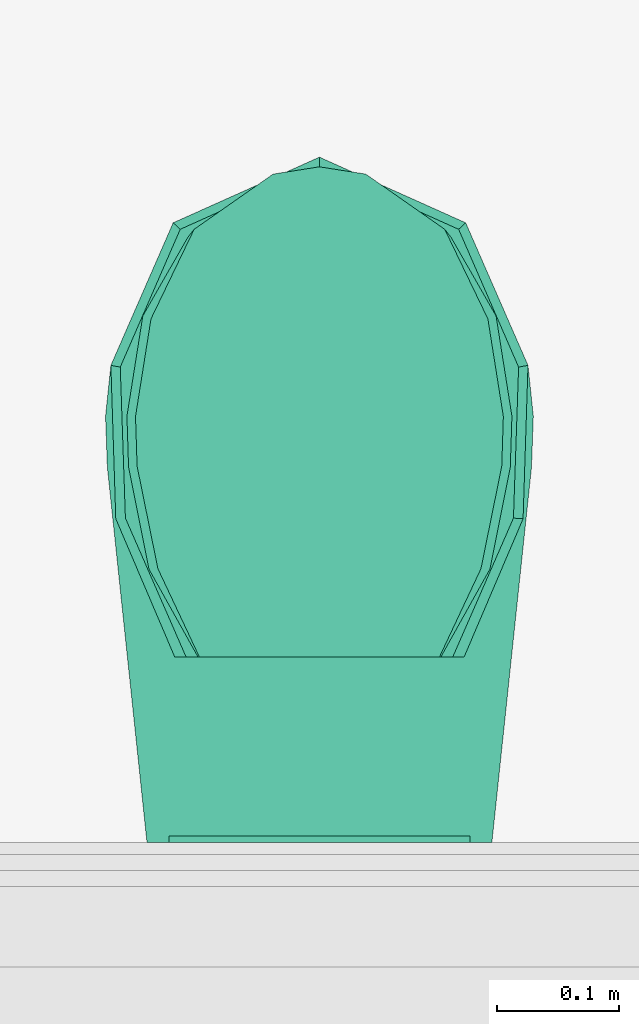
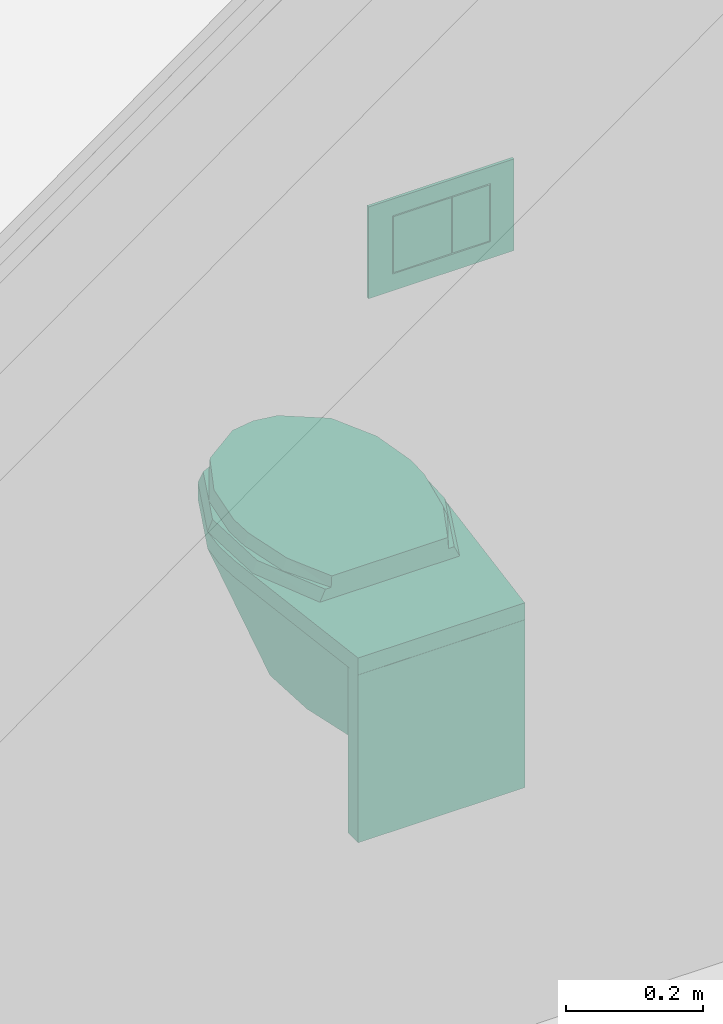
# One storey, part 241 of 301: 1 flow terminal.
"""IFC2X3 building model written with IfcOpenShell, lengths in millimetres."""

from ifc_helpers import new_model, entity, si_unit, converted_unit, derived_unit, money_unit, direction, frame, origin_with_axes, place, context, subcontext, project, spatial, faceted_brep, source, transform, mapped, type_object, element, save


model = new_model("IFC2X3")

# Units and contexts
model_context = context("Model", 3, precision=0.01, world=origin_with_axes(), true_north=direction((0.0, 1.0)))
body_context = subcontext(model_context, "Body", "Model", "MODEL_VIEW")
ifc_project = project(units=[si_unit("LENGTHUNIT", "METRE", prefix="MILLI"), si_unit("AREAUNIT", "SQUARE_METRE"), si_unit("VOLUMEUNIT", "CUBIC_METRE"), converted_unit("PLANEANGLEUNIT", "DEGREE", entity("IfcPlaneAngleMeasure", 0.0174532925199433), si_unit("PLANEANGLEUNIT", "RADIAN"), dimensions=[0, 0, 0, 0, 0, 0, 0]), money_unit("EUR"), converted_unit("TIMEUNIT", "Year", entity("IfcTimeMeasure", 31557600.0), si_unit("TIMEUNIT", "SECOND"), dimensions=[0, 0, 1, 0, 0, 0, 0]), si_unit("MASSUNIT", "GRAM", prefix="KILO"), si_unit("THERMODYNAMICTEMPERATUREUNIT", "DEGREE_CELSIUS"), si_unit("LUMINOUSINTENSITYUNIT", "LUMEN"), si_unit("ENERGYUNIT", "JOULE", prefix="MEGA"), derived_unit("THERMALCONDUCTANCEUNIT", [(si_unit("POWERUNIT", "WATT"), 1), (si_unit("LENGTHUNIT", "METRE"), -1), (si_unit("THERMODYNAMICTEMPERATUREUNIT", "KELVIN"), -1)]), derived_unit("SPECIFICHEATCAPACITYUNIT", [(si_unit("ENERGYUNIT", "JOULE"), 1), (si_unit("MASSUNIT", "GRAM", prefix="KILO"), -1), (si_unit("THERMODYNAMICTEMPERATUREUNIT", "KELVIN"), -1)]), derived_unit("MASSDENSITYUNIT", [(si_unit("MASSUNIT", "GRAM", prefix="KILO"), 1), (si_unit("VOLUMEUNIT", "CUBIC_METRE"), -1)])], contexts=[model_context])

# Site, building, storey
site_placement = place(None, frame((0.0, 0.0, 8650.0), z_axis=(0.0, 0.0, 1.0), x_axis=(1.0, 0.0, 0.0)))
site = spatial("IfcSite", under=ifc_project, at=site_placement, Name="43301:001:0844", CompositionType="ELEMENT")
building_placement = place(site_placement, origin_with_axes())
building = spatial("IfcBuilding", under=site, at=building_placement, Name="Kuressaare Ametikooli tuulikute mehaanikute õppekorpus", CompositionType="ELEMENT")
storey_placement = place(building_placement, origin_with_axes())
storey = spatial("IfcBuildingStorey", under=building, at=storey_placement, Name="1.korrus", CompositionType="ELEMENT", Elevation=0.0)

# Flow terminal
sanitary_terminal_type = type_object("IfcSanitaryTerminalType", Name="WC 27", PredefinedType="NOTDEFINED")
shared_shape = source(origin_with_axes(), body_context, "Body", "Brep", [
    faceted_brep([(-141.0283315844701, -29.31865370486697, 69.99999999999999), (-141.0283315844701, 0.4949050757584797, 69.99999999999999), (141.0283315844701, 0.4949050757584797, 69.99999999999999), (141.0283315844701, -29.31865370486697, 69.99999999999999), (-141.0283315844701, -29.31865370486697, 370.0), (-141.0283315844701, 0.4949050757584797, 370.0), (141.0283315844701, 0.4949050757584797, 370.0), (141.0283315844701, -29.31865370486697, 370.0)], [[[0, 1, 2, 3]], [[0, 4, 5, 1]], [[1, 5, 6, 2]], [[2, 6, 7, 3]], [[3, 7, 4, 0]], [[7, 6, 5, 4]]]),
    faceted_brep([(-101.7881776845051, -122.4661491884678, 370.0), (-164.8111927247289, -257.2969749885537, 370.0), (-170.4738719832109, -389.7973742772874, 370.0), (-119.554809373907, -506.3435444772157, 370.0), (0.0, -560.0, 370.0), (119.554809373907, -506.3435444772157, 370.0), (170.4738719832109, -389.7973742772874, 370.0), (164.8111927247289, -257.295981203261, 370.0), (101.7881776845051, -122.4661491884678, 370.0), (48.96817068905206, -87.43521908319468, 370.0), (48.96817068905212, -29.31865370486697, 370.0), (-48.96817068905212, -29.31865370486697, 370.0), (-48.96817068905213, -87.43521908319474, 370.0), (-63.65862189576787, -201.5126978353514, 370.0), (0.0, -179.8771255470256, 370.0), (63.65862189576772, -201.5126978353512, 370.0), (110.2599674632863, -260.6221805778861, 370.0), (127.3172437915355, -341.3672356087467, 370.0), (110.2599674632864, -422.1122906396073, 370.0), (63.65862189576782, -481.2217733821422, 370.0), (0.0, -502.8573456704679, 370.0), (-63.65862189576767, -481.2217733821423, 370.0), (-110.2599674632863, -422.1122906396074, 370.0), (-127.3172437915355, -341.3672356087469, 370.0), (-110.2599674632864, -260.6221805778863, 370.0), (-70.97348723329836, -270.8651255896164, 120.0), (-74.94382651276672, -372.4786779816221, 120.0), (-47.75865687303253, -440.0938417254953, 120.0), (0.0, -461.5278029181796, 120.0), (47.75865687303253, -440.0938417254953, 120.0), (74.94382651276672, -372.4786779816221, 120.0), (70.97348723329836, -270.8651255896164, 120.0), (48.96817068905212, -141.8100147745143, 135.0708656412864), (48.96817068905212, -132.9294031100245, 150.8349994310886), (48.96817068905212, -111.9632571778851, 220.0911688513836), (48.96817068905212, -168.852251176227, 120.0), (48.96817068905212, -29.31865370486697, 120.0), (-48.96817068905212, -29.31865370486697, 120.0), (-48.96817068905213, -168.852251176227, 120.0), (-48.96817068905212, -132.9294031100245, 150.8349994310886), (-24.48408534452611, -287.5770287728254, 170.0), (0.0, -279.2556548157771, 170.0), (24.48408534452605, -287.5770287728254, 170.0), (42.40767979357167, -310.3114452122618, 170.0), (48.96817068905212, -341.3672356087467, 170.0), (42.40767979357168, -372.4230260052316, 170.0), (24.48408534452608, -395.1574424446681, 170.0), (0.0, -403.4788164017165, 170.0), (-24.48408534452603, -395.1574424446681, 170.0), (-42.40767979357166, -372.4230260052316, 170.0), (-48.96817068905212, -341.3672356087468, 170.0), (-42.4076797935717, -310.311445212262, 170.0)], [[[0, 1, 2, 3, 4, 5, 6, 7, 8, 9, 10, 11, 12], [13, 14, 15, 16, 17, 18, 19, 20, 21, 22, 23, 24]], [[0, 25, 1]], [[1, 26, 2]], [[2, 27, 3]], [[3, 28, 4]], [[4, 29, 5]], [[5, 30, 6]], [[6, 31, 7]], [[8, 7, 32, 33]], [[8, 34, 9]], [[33, 32, 35, 36, 10, 9, 34]], [[10, 36, 37, 11]], [[12, 11, 37, 38, 39]], [[0, 12, 39]], [[13, 40, 41, 14]], [[14, 41, 42, 15]], [[15, 42, 43, 16]], [[16, 43, 44, 17]], [[17, 44, 45, 18]], [[18, 45, 46, 19]], [[19, 46, 47, 20]], [[20, 47, 48, 21]], [[21, 48, 49, 22]], [[22, 49, 50, 23]], [[23, 50, 51, 24]], [[24, 51, 40, 13]], [[25, 0, 39, 38]], [[25, 26, 1]], [[26, 27, 2]], [[27, 28, 3]], [[28, 29, 4]], [[29, 30, 5]], [[30, 31, 6]], [[7, 31, 35, 32]], [[8, 33, 34]], [[31, 30, 29, 28, 27, 26, 25, 38, 37, 36, 35]], [[40, 51, 50, 49, 48, 47, 46, 45, 44, 43, 42, 41]]]),
    faceted_brep([(174.8222455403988, -348.2949128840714, 370.0), (170.4738719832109, -389.7973742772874, 370.0), (119.554809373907, -506.3435444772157, 370.0), (0.0, -560.0, 370.0), (-119.554809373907, -506.3435444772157, 370.0), (-170.4738719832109, -389.7973742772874, 370.0), (-174.8222455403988, -348.2949128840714, 370.0), (-173.3473242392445, -306.5847503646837, 370.0), (-140.975445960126, 0.0, 370.0), (140.9734872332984, 0.0, 370.0), (173.3473242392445, -306.5847503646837, 370.0), (-83.6883665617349, -472.7512164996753, 370.0), (0.0, -510.3107353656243, 370.0), (83.6883665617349, -472.7512164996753, 370.0), (119.3317103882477, -391.1688973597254, 370.0), (122.3755718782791, -362.1171743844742, 370.0), (121.3431269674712, -332.9200606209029, 370.0), (98.68144106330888, -201.7886999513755, 370.0), (-98.68281217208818, -201.7886999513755, 370.0), (-121.3431269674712, -332.9200606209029, 370.0), (-122.3755718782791, -362.1171743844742, 370.0), (-119.3317103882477, -391.1688973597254, 370.0), (174.8222455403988, -348.2949128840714, 400.0), (170.4738719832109, -389.7973742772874, 400.0), (119.554809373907, -506.3435444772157, 400.0), (0.0, -560.0, 400.0), (-119.554809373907, -506.3435444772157, 400.0), (-170.4738719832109, -389.7973742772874, 400.0), (-174.8222455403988, -348.2949128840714, 400.0), (-173.3473242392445, -306.5847503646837, 400.0), (-140.975445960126, 0.0, 400.0), (140.9734872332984, 0.0, 400.0), (173.3473242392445, -306.5847503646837, 400.0), (0.0, -510.3107353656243, 400.0), (-83.6883665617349, -472.7512164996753, 400.0), (83.6883665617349, -472.7512164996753, 400.0), (119.3317103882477, -391.1688973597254, 400.0), (122.3755718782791, -362.1171743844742, 400.0), (121.3431269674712, -332.9200606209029, 400.0), (98.68144106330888, -201.7886999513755, 400.0), (-98.68281217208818, -201.7886999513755, 400.0), (-121.3431269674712, -332.9200606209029, 400.0), (-122.3755718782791, -362.1171743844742, 400.0), (-119.3317103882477, -391.1688973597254, 400.0)], [[[0, 1, 2, 3, 4, 5, 6, 7, 8, 9, 10], [11, 12, 13, 14, 15, 16, 17, 18, 19, 20, 21]], [[22, 23, 1, 0]], [[23, 24, 2, 1]], [[24, 25, 3, 2]], [[25, 26, 4, 3]], [[26, 27, 5, 4]], [[27, 28, 6, 5]], [[28, 29, 7, 6]], [[29, 30, 8, 7]], [[30, 31, 9, 8]], [[31, 32, 10, 9]], [[32, 22, 0, 10]], [[33, 12, 11, 34]], [[35, 13, 12, 33]], [[36, 14, 13, 35]], [[37, 15, 14, 36]], [[38, 16, 15, 37]], [[39, 17, 16, 38]], [[40, 18, 17, 39]], [[41, 19, 18, 40]], [[42, 20, 19, 41]], [[43, 21, 20, 42]], [[34, 11, 21, 43]], [[31, 30, 29, 28, 27, 26, 25, 24, 23, 22, 32], [40, 39, 38, 37, 36, 35, 33, 34, 43, 42, 41]]]),
    faceted_brep([(-170.4738719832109, -389.7973742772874, 400.0), (-166.4663168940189, -264.4263906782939, 400.0), (-118.2121021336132, -151.3163525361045, 400.0), (118.2121021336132, -151.3163525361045, 400.0), (166.4663168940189, -264.4263906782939, 400.0), (170.4738719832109, -389.7973742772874, 400.0), (119.554809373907, -506.3435444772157, 400.0), (0.0, -560.0, 400.0), (-119.554809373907, -506.3435444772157, 400.0), (-87.07689659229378, -411.9963613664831, 400.0), (-76.4888004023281, -438.0775703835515, 400.0), (-62.06856874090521, -459.4262123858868, 400.0), (-44.26109835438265, -474.4067566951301, 400.0), (-23.02579943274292, -483.9023013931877, 400.0), (0.0, -487.1544663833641, 400.0), (23.02579943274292, -483.9023013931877, 400.0), (44.26109835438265, -474.4067566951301, 400.0), (62.06856874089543, -459.4262123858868, 400.0), (76.4888004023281, -438.0775703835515, 400.0), (87.07689659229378, -411.9963613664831, 400.0), (94.51085540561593, -382.2763031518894, 400.0), (97.71606496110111, -351.7983255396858, 400.0), (96.61425296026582, -320.7429308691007, 400.0), (90.99294096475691, -286.7942733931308, 400.0), (81.3289539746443, -253.3384220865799, 400.0), (68.75412876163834, -223.4663237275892, 400.0), (-68.75448552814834, -223.4663237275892, 400.0), (-81.32886310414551, -253.3381075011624, 400.0), (-90.99294096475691, -286.7942733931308, 400.0), (-96.61425296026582, -320.7429308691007, 400.0), (-97.71606496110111, -351.7983255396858, 400.0), (-94.51085540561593, -382.2763031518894, 400.0), (-158.5902763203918, -264.9332211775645, 420.0000000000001), (-108.940468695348, -151.3163525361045, 420.0000000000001), (108.940468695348, -151.3163525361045, 420.0000000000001), (158.5902763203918, -264.9332211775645, 420.0000000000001), (162.8034977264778, -388.4070686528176, 420.0000000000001), (113.7912556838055, -501.0248055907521, 420.0000000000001), (0.0, -552.0944379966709, 420.0000000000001), (-113.7912556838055, -501.0248055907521, 420.0000000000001), (-162.8034977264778, -388.4070686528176, 420.0000000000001), (-76.4888004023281, -438.0775703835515, 420.0000000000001), (-87.07689659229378, -411.9963613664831, 420.0000000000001), (-62.06856874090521, -459.4262123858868, 420.0000000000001), (-44.26109835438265, -474.4067566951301, 420.0000000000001), (-23.02579943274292, -483.9023013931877, 420.0000000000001), (0.0, -487.1544663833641, 420.0000000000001), (23.02579943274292, -483.9023013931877, 420.0000000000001), (44.26109835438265, -474.4067566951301, 420.0000000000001), (62.06856874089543, -459.4262123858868, 420.0000000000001), (76.4888004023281, -438.0775703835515, 420.0000000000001), (87.07689659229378, -411.9963613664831, 420.0000000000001), (94.51085540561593, -382.2763031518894, 420.0000000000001), (97.71606496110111, -351.7983255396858, 420.0000000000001), (96.61425296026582, -320.7429308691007, 420.0000000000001), (90.99294096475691, -286.7942733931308, 420.0000000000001), (81.3289539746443, -253.3384220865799, 420.0000000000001), (68.75412876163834, -223.4663237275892, 420.0000000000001), (-68.75448552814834, -223.4663237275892, 420.0000000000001), (-81.32886310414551, -253.3381075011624, 420.0000000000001), (-90.99294096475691, -286.7942733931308, 420.0000000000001), (-96.61425296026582, -320.7429308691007, 420.0000000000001), (-97.71606496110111, -351.7983255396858, 420.0000000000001), (-94.51085540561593, -382.2763031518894, 420.0000000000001)], [[[0, 1, 2, 3, 4, 5, 6, 7, 8], [9, 10, 11, 12, 13, 14, 15, 16, 17, 18, 19, 20, 21, 22, 23, 24, 25, 26, 27, 28, 29, 30, 31]], [[0, 32, 1]], [[1, 33, 2]], [[3, 2, 33, 34]], [[3, 35, 4]], [[4, 36, 5]], [[5, 37, 6]], [[6, 38, 7]], [[7, 39, 8]], [[8, 40, 0]], [[41, 10, 9, 42]], [[43, 11, 10, 41]], [[44, 12, 11, 43]], [[45, 13, 12, 44]], [[46, 14, 13, 45]], [[47, 15, 14, 46]], [[48, 16, 15, 47]], [[49, 17, 16, 48]], [[50, 18, 17, 49]], [[51, 19, 18, 50]], [[52, 20, 19, 51]], [[53, 21, 20, 52]], [[54, 22, 21, 53]], [[55, 23, 22, 54]], [[56, 24, 23, 55]], [[57, 25, 24, 56]], [[58, 26, 25, 57]], [[59, 27, 26, 58]], [[60, 28, 27, 59]], [[61, 29, 28, 60]], [[62, 30, 29, 61]], [[63, 31, 30, 62]], [[42, 9, 31, 63]], [[0, 40, 32]], [[1, 32, 33]], [[34, 33, 32, 40, 39, 38, 37, 36, 35], [60, 59, 58, 57, 56, 55, 54, 53, 52, 51, 50, 49, 48, 47, 46, 45, 44, 43, 41, 42, 63, 62, 61]], [[3, 34, 35]], [[4, 35, 36]], [[5, 36, 37]], [[6, 37, 38]], [[7, 38, 39]], [[8, 39, 40]]]),
    faceted_brep([(107.5993284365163, -494.4181209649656, 420.0000000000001), (37.93662119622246, -546.1188070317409, 440.0000000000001), (39.85813221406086, -538.8154789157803, 420.0000000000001), (102.412130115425, -501.0248055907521, 440.0000000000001), (0.0, -552.0944379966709, 440.0000000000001), (0.0, -545.0932206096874, 420.0000000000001), (-39.85813221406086, -538.8154789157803, 420.0000000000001), (-107.5993284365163, -494.4181209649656, 420.0000000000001), (-144.3513116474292, -430.2603362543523, 420.0000000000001), (-157.3400209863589, -348.2949128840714, 420.0000000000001), (-156.01259181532, -306.5847503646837, 420.0000000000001), (-139.3844700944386, -223.3443004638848, 420.0000000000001), (-99.17339219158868, -151.3163525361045, 420.0000000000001), (99.17339219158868, -151.3163525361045, 420.0000000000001), (139.3844700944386, -223.3443004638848, 420.0000000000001), (156.01259181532, -306.5847503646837, 420.0000000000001), (157.3400209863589, -348.2949128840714, 420.0000000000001), (144.3504302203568, -430.2603362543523, 420.0000000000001), (137.6912486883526, -427.7848170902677, 440.0000000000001), (150.3317943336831, -348.0176467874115, 440.0000000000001), (149.0405036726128, -307.4274802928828, 440.0000000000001), (132.0192654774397, -223.5758524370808, 440.0000000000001), (98.04642182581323, -151.3163525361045, 440.0000000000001), (-98.04642182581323, -151.3163525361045, 440.0000000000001), (-132.0192654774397, -223.5758524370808, 440.0000000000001), (-149.0405036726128, -307.4274802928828, 440.0000000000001), (-150.3317943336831, -348.0176467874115, 440.0000000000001), (-137.6912486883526, -427.7848170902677, 440.0000000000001), (-102.412130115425, -501.0248055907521, 440.0000000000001), (-37.93662119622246, -546.1188070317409, 440.0000000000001)], [[[0, 1, 2]], [[0, 3, 1]], [[2, 1, 4]], [[0, 2, 5, 6, 7, 8, 9, 10, 11, 12, 13, 14, 15, 16, 17]], [[17, 3, 0]], [[3, 18, 19, 20, 21, 22, 23, 24, 25, 26, 27, 28, 29, 4, 1]], [[2, 4, 5]], [[5, 29, 6]], [[6, 28, 7]], [[7, 27, 8]], [[8, 26, 9]], [[9, 25, 10]], [[10, 24, 11]], [[11, 23, 12]], [[12, 23, 22, 13]], [[13, 21, 14]], [[14, 20, 15]], [[15, 19, 16]], [[16, 18, 17]], [[17, 18, 3]], [[16, 19, 18]], [[15, 20, 19]], [[14, 21, 20]], [[13, 22, 21]], [[11, 24, 23]], [[10, 25, 24]], [[9, 26, 25]], [[8, 27, 26]], [[7, 28, 27]], [[6, 29, 28]], [[5, 4, 29]]]),
    faceted_brep([(83.0, 0.0, 1036.0), (83.0, -5.0, 1036.0), (83.0, -4.999999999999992, 1170.0), (83.0, 0.0, 1170.0), (123.0, 0.0, 1036.0), (123.0, -5.0, 1036.0), (123.0, -4.999999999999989, 1200.0), (-123.0, -4.999999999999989, 1200.0), (-123.0, -5.0, 1036.0), (-83.0, -5.0, 1036.0), (-83.0, -4.999999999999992, 1170.0), (-83.0, 0.0, 1170.0), (-83.0, 0.0, 1036.0), (-123.0, 0.0, 1036.0), (-123.0, 0.0, 1200.0), (123.0, 0.0, 1200.0)], [[[0, 1, 2, 3]], [[4, 5, 1, 0]], [[1, 5, 6, 7, 8, 9, 10, 2]], [[3, 2, 10, 11]], [[0, 3, 11, 12, 13, 14, 15, 4]], [[15, 6, 5, 4]], [[14, 7, 6, 15]], [[13, 8, 7, 14]], [[12, 9, 8, 13]], [[11, 10, 9, 12]]]),
    faceted_brep([(-83.0, 0.0, 1036.0), (-83.0, -5.0, 1036.0), (-83.0, -4.999999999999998, 1066.0), (-83.0, 0.0, 1066.0), (83.0, 0.0, 1036.0), (83.0, -5.0, 1036.0), (83.0, -4.999999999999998, 1066.0), (83.0, 0.0, 1066.0)], [[[0, 1, 2, 3]], [[4, 5, 1, 0]], [[1, 5, 6, 2]], [[3, 2, 6, 7]], [[0, 3, 7, 4]], [[7, 6, 5, 4]]]),
    faceted_brep([(81.0, 0.0, 1068.0), (81.0, -4.999999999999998, 1068.0), (-17.0, -4.999999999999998, 1068.0), (-17.0, 0.0, 1068.0), (81.0, 0.0, 1168.0), (81.0, -4.999999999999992, 1168.0), (-17.0, -4.999999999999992, 1168.0), (-17.0, 0.0, 1168.0)], [[[0, 1, 2, 3]], [[4, 5, 1, 0]], [[1, 5, 6, 2]], [[3, 2, 6, 7]], [[0, 3, 7, 4]], [[7, 6, 5, 4]]]),
    faceted_brep([(-19.0, 0.0, 1168.0), (-19.0, -4.999999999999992, 1168.0), (-19.0, -4.999999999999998, 1068.0), (-19.0, 0.0, 1068.0), (-81.0, 0.0, 1168.0), (-81.0, -4.999999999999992, 1168.0), (-81.0, -4.999999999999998, 1068.0), (-81.0, 0.0, 1068.0)], [[[0, 1, 2, 3]], [[4, 5, 1, 0]], [[1, 5, 6, 2]], [[3, 2, 6, 7]], [[0, 3, 7, 4]], [[7, 6, 5, 4]]]),
])
flow_terminal_placement = place(storey_placement, frame((102267.9522847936, 18134.79361712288, 59.99999999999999), z_axis=(0.0, 0.0, 1.0), x_axis=(-0.9999999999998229, 5.951369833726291e-07, 0.0)))
element("IfcFlowTerminal", 1, at=flow_terminal_placement, inside=storey, type_object=sanitary_terminal_type, Name="WC2", context=body_context, shape_type="MappedRepresentation", body=[
    mapped(shared_shape, transform((0.0, 0.0, 0.0))),
])

save(model, "model.ifc")
